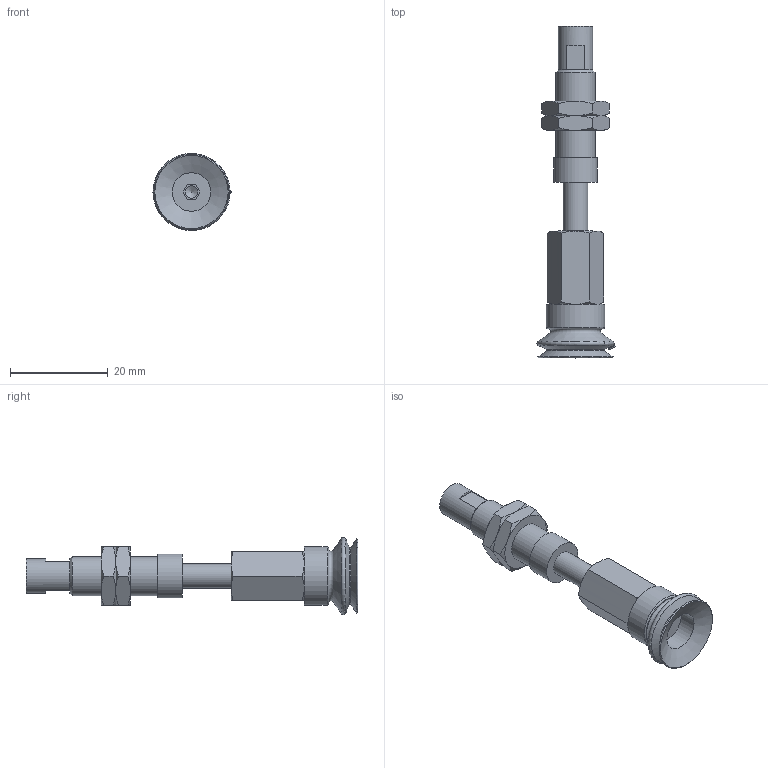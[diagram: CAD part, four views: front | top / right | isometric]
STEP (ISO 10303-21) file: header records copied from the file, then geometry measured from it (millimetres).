
FILE_DESCRIPTION(('STEP AP203'),'1');
FILE_NAME('.stp','2025-08-27T07:35:37',(' '),(' '),'Spatial InterOp 3D',' ',' ');
FILE_SCHEMA(('CONFIG_CONTROL_DESIGN'));
Length unit declared in the file: millimetre
Products named in the file (7): BNABPJTS-15-10-※; ADAPTER; NAPCTS-10-10-MBODY; Adapter-15-NAPJ; NUT-NAPJ-15-10-s; NAPJTS-15-10-FBODY; BPJG-15-※
Assembly tree (7 placements, depth 2):
  BNABPJTS-15-10-※
    ADAPTER
    NAPCTS-10-10-MBODY
    Adapter-15-NAPJ
    NUT-NAPJ-15-10-s  x2
    NAPJTS-15-10-FBODY
    BPJG-15-※
Bounding box: 15.99 x 68 x 15.78 mm (x, y, z)
Volume: 4388.3 mm3; surface area: 4774.2 mm2
Topology: 7 solids, 7 shells, 137 faces, 290 edges, 171 vertices
Faces by surface type: cone 53, plane 50, cylinder 15, torus 9, bspline 6, sphere 4
Full cylindrical faces by diameter (mm): 2.5 x1, 4.134 x2, 4.6 x1, 5 x3, 7 x1, 7.188 x2, 7.9 x1, 8 x2, 9 x1, 12 x1
Entity records: 3606 total; most frequent: CARTESIAN_POINT 1060, DIRECTION 466, ORIENTED_EDGE 394, AXIS2_PLACEMENT_3D 209, EDGE_CURVE 197, EDGE_LOOP 161, FACE_OUTER_BOUND 135, VERTEX_POINT 135
